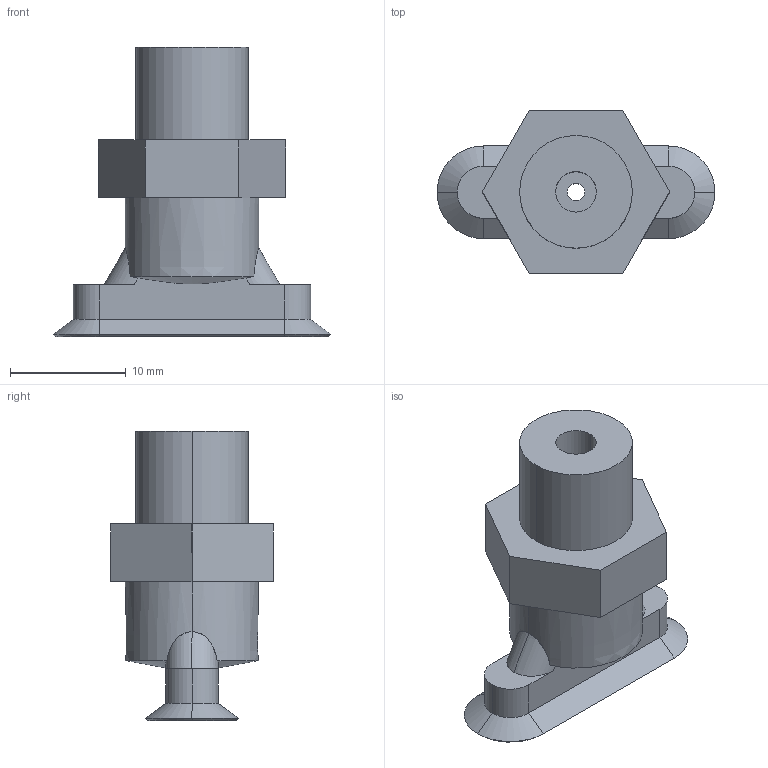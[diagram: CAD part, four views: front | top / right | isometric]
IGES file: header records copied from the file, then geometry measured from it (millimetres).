
Start section: 3D InterOp IGES (v. 2018 1.0.2), Spatial Corp. Copyright (c) 1999-2017.
Global section: file name: schmalz_10_01_05_00231_5cz671svrlqm38am8oof9265e.igs; native system: Spatial Corp.; preprocessor: 3D InterOp ACIS/IGES; author: TraceParts; organization: TraceParts S.A.; date: 20181120.072729; units: millimetre
Bounding box: 24 x 14 x 25 mm (x, y, z)
Surface area: 1793 mm2 (no closed solid volume)
Topology: 0 solids, 0 shells, 56 faces, 256 edges, 256 vertices
Faces by surface type: revolution 34, extrusion 22
